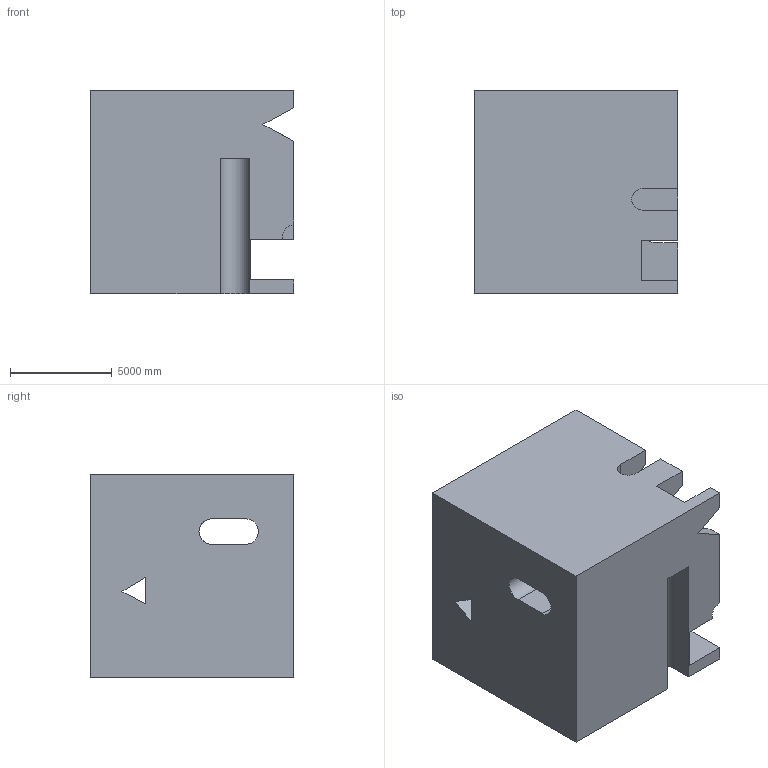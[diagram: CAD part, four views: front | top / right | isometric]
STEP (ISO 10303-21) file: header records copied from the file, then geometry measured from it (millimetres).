
FILE_DESCRIPTION (( 'STEP AP203' ), '1' );
FILE_NAME ('911.STEP', '2022-07-29T14:14:01', ( 'user' ), ( '' ), 'SwSTEP 2.0', 'SolidWorks 2021', '' );
FILE_SCHEMA (( 'CONFIG_CONTROL_DESIGN' ));
Length unit declared in the file: centimetre
Products named in the file (1): 911
Bounding box: 10000 x 10000 x 10000 mm (x, y, z)
Volume: 827414057425.3 mm3; surface area: 819442091.5 mm2
Topology: 1 solids, 1 shells, 60 faces, 180 edges, 120 vertices
Faces by surface type: plane 50, cylinder 10
Entity records: 2275 total; most frequent: CARTESIAN_POINT 563, ORIENTED_EDGE 360, DIRECTION 315, EDGE_CURVE 180, LINE 153, VECTOR 153, VERTEX_POINT 120, AXIS2_PLACEMENT_3D 81
